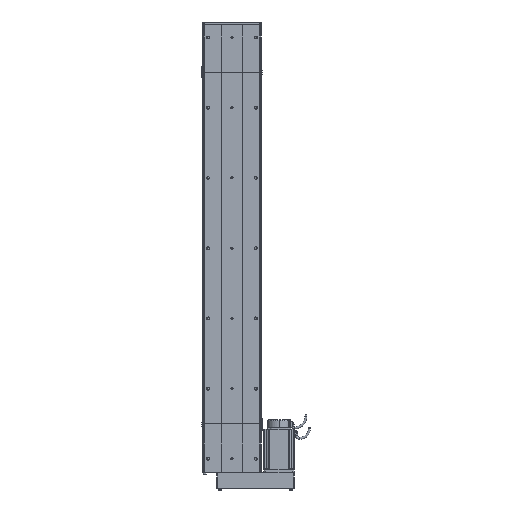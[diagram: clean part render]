
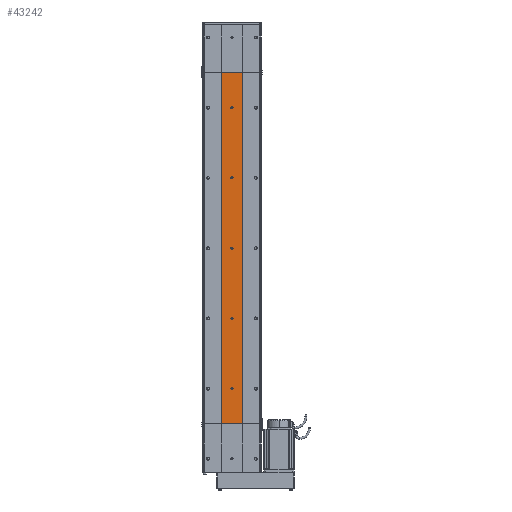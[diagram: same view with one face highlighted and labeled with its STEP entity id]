
A CAD part, front view. The second image highlights one B-rep face of the part: STEP entity #43242.
In plain terms, the highlighted planar face has unit normal (0, -1, 0).
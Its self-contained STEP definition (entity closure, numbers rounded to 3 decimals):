
#26709 = VERTEX_POINT ( 'NONE', #68681 ) ;
#26840 = VERTEX_POINT ( 'NONE', #36570 ) ;
#26841 = EDGE_CURVE ( 'NONE', #26929, #26840, #36571, .T. ) ;
#26929 = VERTEX_POINT ( 'NONE', #36670 ) ;
#27077 = VERTEX_POINT ( 'NONE', #29778 ) ;
#27078 = EDGE_CURVE ( 'NONE', #26709, #27077, #29614, .T. ) ;
#29614 = CIRCLE ( 'NONE', #29795, 3. ) ;
#29763 = DIRECTION ( 'NONE',  ( 0., 0., -1. ) ) ;
#29764 = DIRECTION ( 'NONE',  ( 0., -1., 0. ) ) ;
#29766 = CARTESIAN_POINT ( 'NONE',  ( 0., -32.5, 700. ) ) ;
#29778 = CARTESIAN_POINT ( 'NONE',  ( 0., -32.5, 697. ) ) ;
#29795 = AXIS2_PLACEMENT_3D ( 'NONE', #29766, #29764, #29763 ) ;
#36537 = AXIS2_PLACEMENT_3D ( 'NONE', #36543, #36562, #36593 ) ;
#36543 = CARTESIAN_POINT ( 'NONE',  ( 0., -32.5, 900. ) ) ;
#36562 = DIRECTION ( 'NONE',  ( 0., -1., 0. ) ) ;
#36570 = CARTESIAN_POINT ( 'NONE',  ( 0., -32.5, 897. ) ) ;
#36571 = CIRCLE ( 'NONE', #36537, 3. ) ;
#36593 = DIRECTION ( 'NONE',  ( 0., 0., -1. ) ) ;
#36670 = CARTESIAN_POINT ( 'NONE',  ( 0., -32.5, 903. ) ) ;
#41608 = CARTESIAN_POINT ( 'NONE',  ( 0., -32.5, 700. ) ) ;
#41609 = AXIS2_PLACEMENT_3D ( 'NONE', #41608, #41613, #41612 ) ;
#41611 = AXIS2_PLACEMENT_3D ( 'NONE', #41678, #41677, #41676 ) ;
#41612 = DIRECTION ( 'NONE',  ( 0., 0., -1. ) ) ;
#41613 = DIRECTION ( 'NONE',  ( 0., -1., 0. ) ) ;
#41618 = CIRCLE ( 'NONE', #41611, 3. ) ;
#41620 = CARTESIAN_POINT ( 'NONE',  ( 0., -32.5, 900. ) ) ;
#41639 = CIRCLE ( 'NONE', #41609, 3. ) ;
#41644 = CARTESIAN_POINT ( 'NONE',  ( -30., -32.5, 0. ) ) ;
#41646 = FACE_OUTER_BOUND ( 'NONE', #43478, .T. ) ;
#41647 = FACE_BOUND ( 'NONE', #43485, .T. ) ;
#41649 = DIRECTION ( 'NONE',  ( 0., 0., -1. ) ) ;
#41650 = DIRECTION ( 'NONE',  ( 0., -1., 0. ) ) ;
#41651 = AXIS2_PLACEMENT_3D ( 'NONE', #41620, #41650, #41649 ) ;
#41652 = AXIS2_PLACEMENT_3D ( 'NONE', #41644, #41654, #41659 ) ;
#41653 = FACE_BOUND ( 'NONE', #43240, .T. ) ;
#41654 = DIRECTION ( 'NONE',  ( 0., 1., 0. ) ) ;
#41659 = DIRECTION ( 'NONE',  ( 0., 0., 1. ) ) ;
#41660 = DIRECTION ( 'NONE',  ( 0., 0., -1. ) ) ;
#41661 = DIRECTION ( 'NONE',  ( 0., -1., 0. ) ) ;
#41662 = CARTESIAN_POINT ( 'NONE',  ( 0., -32.5, 300. ) ) ;
#41663 = CIRCLE ( 'NONE', #41651, 3. ) ;
#41669 = AXIS2_PLACEMENT_3D ( 'NONE', #41662, #41661, #41660 ) ;
#41672 = PLANE ( 'NONE',  #41652 ) ;
#41673 = FACE_BOUND ( 'NONE', #43221, .T. ) ;
#41675 = FACE_BOUND ( 'NONE', #43243, .T. ) ;
#41676 = DIRECTION ( 'NONE',  ( 0., 0., -1. ) ) ;
#41677 = DIRECTION ( 'NONE',  ( 0., -1., 0. ) ) ;
#41678 = CARTESIAN_POINT ( 'NONE',  ( 0., -32.5, 500. ) ) ;
#41680 = CIRCLE ( 'NONE', #41669, 3. ) ;
#41682 = FACE_BOUND ( 'NONE', #43201, .T. ) ;
#41758 = CARTESIAN_POINT ( 'NONE',  ( 30., -32.5, 0. ) ) ;
#41759 = LINE ( 'NONE', #41758, #41767 ) ;
#41766 = DIRECTION ( 'NONE',  ( 0., 0., 1. ) ) ;
#41767 = VECTOR ( 'NONE', #41766, 1000. ) ;
#41801 = LINE ( 'NONE', #41903, #41899 ) ;
#41889 = DIRECTION ( 'NONE',  ( 0., 0., -1. ) ) ;
#41890 = DIRECTION ( 'NONE',  ( 0., -1., 0. ) ) ;
#41891 = CARTESIAN_POINT ( 'NONE',  ( 0., -32.5, 100. ) ) ;
#41896 = CIRCLE ( 'NONE', #41906, 3. ) ;
#41898 = DIRECTION ( 'NONE',  ( 0., 0., 1. ) ) ;
#41899 = VECTOR ( 'NONE', #41898, 1000. ) ;
#41903 = CARTESIAN_POINT ( 'NONE',  ( -30., -32.5, 0. ) ) ;
#41906 = AXIS2_PLACEMENT_3D ( 'NONE', #41891, #41890, #41889 ) ;
#42860 = CARTESIAN_POINT ( 'NONE',  ( 0., -32.5, 297. ) ) ;
#43001 = CARTESIAN_POINT ( 'NONE',  ( 0., -32.5, 303. ) ) ;
#43006 = CARTESIAN_POINT ( 'NONE',  ( 0., -32.5, 497. ) ) ;
#43048 = ORIENTED_EDGE ( 'NONE', *, *, #46000, .F. ) ;
#43198 = ORIENTED_EDGE ( 'NONE', *, *, #26841, .F. ) ;
#43199 = EDGE_CURVE ( 'NONE', #27077, #26709, #41639, .T. ) ;
#43201 = EDGE_LOOP ( 'NONE', ( #43203, #43048 ) ) ;
#43203 = ORIENTED_EDGE ( 'NONE', *, *, #43215, .F. ) ;
#43205 = ORIENTED_EDGE ( 'NONE', *, *, #27078, .F. ) ;
#43206 = EDGE_CURVE ( 'NONE', #45882, #46033, #41618, .T. ) ;
#43208 = ORIENTED_EDGE ( 'NONE', *, *, #43474, .F. ) ;
#43214 = ORIENTED_EDGE ( 'NONE', *, *, #46035, .F. ) ;
#43215 = EDGE_CURVE ( 'NONE', #45783, #45891, #41680, .T. ) ;
#43217 = ORIENTED_EDGE ( 'NONE', *, *, #51791, .T. ) ;
#43221 = EDGE_LOOP ( 'NONE', ( #43208, #43367 ) ) ;
#43237 = EDGE_CURVE ( 'NONE', #26840, #26929, #41663, .T. ) ;
#43240 = EDGE_LOOP ( 'NONE', ( #43455, #43205 ) ) ;
#43242 = ADVANCED_FACE ( 'NONE', ( #41647, #41653, #41675, #41682, #41673, #41646 ), #41672, .F. ) ;
#43243 = EDGE_LOOP ( 'NONE', ( #43345, #43214 ) ) ;
#43345 = ORIENTED_EDGE ( 'NONE', *, *, #43206, .F. ) ;
#43363 = ORIENTED_EDGE ( 'NONE', *, *, #43370, .T. ) ;
#43367 = ORIENTED_EDGE ( 'NONE', *, *, #65663, .F. ) ;
#43370 = EDGE_CURVE ( 'NONE', #52051, #51792, #41759, .T. ) ;
#43372 = ORIENTED_EDGE ( 'NONE', *, *, #51997, .F. ) ;
#43455 = ORIENTED_EDGE ( 'NONE', *, *, #43199, .F. ) ;
#43457 = EDGE_CURVE ( 'NONE', #51993, #52030, #41801, .T. ) ;
#43474 = EDGE_CURVE ( 'NONE', #65434, #65676, #41896, .T. ) ;
#43475 = ORIENTED_EDGE ( 'NONE', *, *, #43457, .F. ) ;
#43478 = EDGE_LOOP ( 'NONE', ( #43217, #43475, #43372, #43363 ) ) ;
#43483 = ORIENTED_EDGE ( 'NONE', *, *, #43237, .F. ) ;
#43485 = EDGE_LOOP ( 'NONE', ( #43483, #43198 ) ) ;
#43693 = DIRECTION ( 'NONE',  ( 0., 0., -1. ) ) ;
#43695 = DIRECTION ( 'NONE',  ( 0., -1., 0. ) ) ;
#43696 = AXIS2_PLACEMENT_3D ( 'NONE', #43728, #43695, #43693 ) ;
#43716 = CIRCLE ( 'NONE', #43696, 3. ) ;
#43728 = CARTESIAN_POINT ( 'NONE',  ( 0., -32.5, 300. ) ) ;
#43744 = CIRCLE ( 'NONE', #43751, 3. ) ;
#43746 = CARTESIAN_POINT ( 'NONE',  ( 0., -32.5, 500. ) ) ;
#43751 = AXIS2_PLACEMENT_3D ( 'NONE', #43746, #43842, #43841 ) ;
#43790 = CARTESIAN_POINT ( 'NONE',  ( 0., -32.5, 503. ) ) ;
#43841 = DIRECTION ( 'NONE',  ( 0., 0., -1. ) ) ;
#43842 = DIRECTION ( 'NONE',  ( 0., -1., 0. ) ) ;
#45783 = VERTEX_POINT ( 'NONE', #42860 ) ;
#45882 = VERTEX_POINT ( 'NONE', #43006 ) ;
#45891 = VERTEX_POINT ( 'NONE', #43001 ) ;
#46000 = EDGE_CURVE ( 'NONE', #45891, #45783, #43716, .T. ) ;
#46033 = VERTEX_POINT ( 'NONE', #43790 ) ;
#46035 = EDGE_CURVE ( 'NONE', #46033, #45882, #43744, .T. ) ;
#51791 = EDGE_CURVE ( 'NONE', #51792, #52030, #54515, .T. ) ;
#51792 = VERTEX_POINT ( 'NONE', #54512 ) ;
#51993 = VERTEX_POINT ( 'NONE', #54754 ) ;
#51997 = EDGE_CURVE ( 'NONE', #52051, #51993, #54805, .T. ) ;
#52030 = VERTEX_POINT ( 'NONE', #54833 ) ;
#52051 = VERTEX_POINT ( 'NONE', #54871 ) ;
#54512 = CARTESIAN_POINT ( 'NONE',  ( 30., -32.5, 1000. ) ) ;
#54513 = VECTOR ( 'NONE', #54573, 1000. ) ;
#54514 = CARTESIAN_POINT ( 'NONE',  ( -30., -32.5, 1000. ) ) ;
#54515 = LINE ( 'NONE', #54514, #54513 ) ;
#54573 = DIRECTION ( 'NONE',  ( -1., 0., 0. ) ) ;
#54754 = CARTESIAN_POINT ( 'NONE',  ( -30., -32.5, 0. ) ) ;
#54804 = CARTESIAN_POINT ( 'NONE',  ( -30., -32.5, 0. ) ) ;
#54805 = LINE ( 'NONE', #54804, #54809 ) ;
#54808 = DIRECTION ( 'NONE',  ( -1., 0., 0. ) ) ;
#54809 = VECTOR ( 'NONE', #54808, 1000. ) ;
#54833 = CARTESIAN_POINT ( 'NONE',  ( -30., -32.5, 1000. ) ) ;
#54871 = CARTESIAN_POINT ( 'NONE',  ( 30., -32.5, 0. ) ) ;
#65434 = VERTEX_POINT ( 'NONE', #72169 ) ;
#65663 = EDGE_CURVE ( 'NONE', #65676, #65434, #72430, .T. ) ;
#65676 = VERTEX_POINT ( 'NONE', #72459 ) ;
#68681 = CARTESIAN_POINT ( 'NONE',  ( 0., -32.5, 703. ) ) ;
#72169 = CARTESIAN_POINT ( 'NONE',  ( 0., -32.5, 97. ) ) ;
#72410 = CARTESIAN_POINT ( 'NONE',  ( 0., -32.5, 100. ) ) ;
#72414 = AXIS2_PLACEMENT_3D ( 'NONE', #72410, #72468, #72467 ) ;
#72430 = CIRCLE ( 'NONE', #72414, 3. ) ;
#72459 = CARTESIAN_POINT ( 'NONE',  ( 0., -32.5, 103. ) ) ;
#72467 = DIRECTION ( 'NONE',  ( 0., 0., -1. ) ) ;
#72468 = DIRECTION ( 'NONE',  ( 0., -1., 0. ) ) ;
